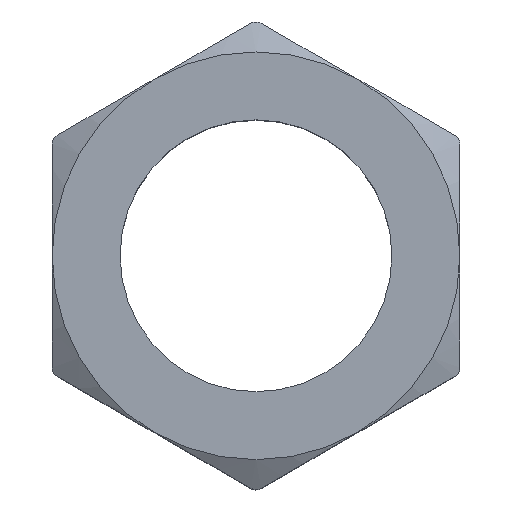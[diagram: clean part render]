
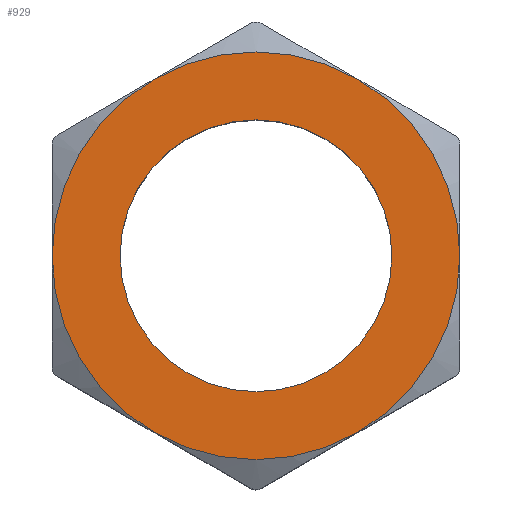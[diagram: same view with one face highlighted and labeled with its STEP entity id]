
A CAD part, top view. The second image highlights one B-rep face of the part: STEP entity #929.
In plain terms, the highlighted planar face has unit normal (0, 0, 1).
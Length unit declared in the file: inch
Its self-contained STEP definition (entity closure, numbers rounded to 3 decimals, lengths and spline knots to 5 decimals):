
#6 = CIRCLE ( 'NONE', #634, 0.65625 ) ;
#23 = DIRECTION ( 'NONE',  ( 0., 0., 1. ) ) ;
#54 = VERTEX_POINT ( 'NONE', #661 ) ;
#59 = CIRCLE ( 'NONE', #209, 0.65625 ) ;
#72 = CIRCLE ( 'NONE', #690, 0.65625 ) ;
#81 = ORIENTED_EDGE ( 'NONE', *, *, #644, .T. ) ;
#98 = DIRECTION ( 'NONE',  ( 1., 0., 0. ) ) ;
#109 = FACE_OUTER_BOUND ( 'NONE', #368, .T. ) ;
#124 = DIRECTION ( 'NONE',  ( 1., 0., 0. ) ) ;
#134 = CIRCLE ( 'NONE', #262, 0.65625 ) ;
#139 = AXIS2_PLACEMENT_3D ( 'NONE', #798, #357, #510 ) ;
#153 = ORIENTED_EDGE ( 'NONE', *, *, #734, .T. ) ;
#155 = CARTESIAN_POINT ( 'NONE',  ( 0., 0., 0.375 ) ) ;
#174 = EDGE_CURVE ( 'NONE', #449, #449, #571, .T. ) ;
#175 = VERTEX_POINT ( 'NONE', #475 ) ;
#184 = CARTESIAN_POINT ( 'NONE',  ( 0., 0., 0.375 ) ) ;
#194 = CARTESIAN_POINT ( 'NONE',  ( 0., 0., 0.375 ) ) ;
#203 = ORIENTED_EDGE ( 'NONE', *, *, #174, .F. ) ;
#204 = DIRECTION ( 'NONE',  ( 1., 0., 0. ) ) ;
#209 = AXIS2_PLACEMENT_3D ( 'NONE', #194, #479, #124 ) ;
#215 = DIRECTION ( 'NONE',  ( 0., 0., 1. ) ) ;
#235 = DIRECTION ( 'NONE',  ( 0., 0., 1. ) ) ;
#248 = ORIENTED_EDGE ( 'NONE', *, *, #874, .T. ) ;
#259 = VERTEX_POINT ( 'NONE', #791 ) ;
#262 = AXIS2_PLACEMENT_3D ( 'NONE', #597, #888, #679 ) ;
#273 = AXIS2_PLACEMENT_3D ( 'NONE', #829, #850, #204 ) ;
#283 = CARTESIAN_POINT ( 'NONE',  ( 0., 0., 0.375 ) ) ;
#293 = CARTESIAN_POINT ( 'NONE',  ( -0.32812, 0.56833, 0.375 ) ) ;
#297 = DIRECTION ( 'NONE',  ( 1., 0., 0. ) ) ;
#309 = EDGE_CURVE ( 'NONE', #428, #175, #725, .T. ) ;
#336 = CIRCLE ( 'NONE', #139, 0.65625 ) ;
#338 = VERTEX_POINT ( 'NONE', #432 ) ;
#357 = DIRECTION ( 'NONE',  ( 0., 0., 1. ) ) ;
#358 = EDGE_CURVE ( 'NONE', #692, #54, #72, .T. ) ;
#368 = EDGE_LOOP ( 'NONE', ( #81, #893, #153, #523, #704, #248 ) ) ;
#410 = DIRECTION ( 'NONE',  ( 1., 0., 0. ) ) ;
#428 = VERTEX_POINT ( 'NONE', #851 ) ;
#432 = CARTESIAN_POINT ( 'NONE',  ( -0.32813, -0.56833, 0.375 ) ) ;
#449 = VERTEX_POINT ( 'NONE', #882 ) ;
#471 = FACE_BOUND ( 'NONE', #494, .T. ) ;
#475 = CARTESIAN_POINT ( 'NONE',  ( 0.32813, 0.56833, 0.375 ) ) ;
#479 = DIRECTION ( 'NONE',  ( 0., 0., 1. ) ) ;
#494 = EDGE_LOOP ( 'NONE', ( #203 ) ) ;
#510 = DIRECTION ( 'NONE',  ( 1., 0., 0. ) ) ;
#523 = ORIENTED_EDGE ( 'NONE', *, *, #358, .T. ) ;
#539 = AXIS2_PLACEMENT_3D ( 'NONE', #184, #235, #685 ) ;
#571 = CIRCLE ( 'NONE', #273, 0.4375 ) ;
#597 = CARTESIAN_POINT ( 'NONE',  ( 0., 0., 0.375 ) ) ;
#612 = AXIS2_PLACEMENT_3D ( 'NONE', #155, #215, #297 ) ;
#622 = EDGE_CURVE ( 'NONE', #54, #338, #59, .T. ) ;
#634 = AXIS2_PLACEMENT_3D ( 'NONE', #283, #765, #410 ) ;
#644 = EDGE_CURVE ( 'NONE', #259, #428, #6, .T. ) ;
#661 = CARTESIAN_POINT ( 'NONE',  ( -0.65625, 0., 0.375 ) ) ;
#679 = DIRECTION ( 'NONE',  ( 1., 0., 0. ) ) ;
#685 = DIRECTION ( 'NONE',  ( 1., 0., 0. ) ) ;
#690 = AXIS2_PLACEMENT_3D ( 'NONE', #825, #23, #98 ) ;
#692 = VERTEX_POINT ( 'NONE', #293 ) ;
#704 = ORIENTED_EDGE ( 'NONE', *, *, #622, .T. ) ;
#725 = CIRCLE ( 'NONE', #612, 0.65625 ) ;
#734 = EDGE_CURVE ( 'NONE', #175, #692, #336, .T. ) ;
#765 = DIRECTION ( 'NONE',  ( 0., 0., 1. ) ) ;
#791 = CARTESIAN_POINT ( 'NONE',  ( 0.32812, -0.56833, 0.375 ) ) ;
#798 = CARTESIAN_POINT ( 'NONE',  ( 0., 0., 0.375 ) ) ;
#825 = CARTESIAN_POINT ( 'NONE',  ( 0., 0., 0.375 ) ) ;
#828 = PLANE ( 'NONE',  #539 ) ;
#829 = CARTESIAN_POINT ( 'NONE',  ( 0., 0., 0.375 ) ) ;
#850 = DIRECTION ( 'NONE',  ( 0., 0., 1. ) ) ;
#851 = CARTESIAN_POINT ( 'NONE',  ( 0.65625, 0., 0.375 ) ) ;
#874 = EDGE_CURVE ( 'NONE', #338, #259, #134, .T. ) ;
#882 = CARTESIAN_POINT ( 'NONE',  ( 0.4375, 0., 0.375 ) ) ;
#888 = DIRECTION ( 'NONE',  ( 0., 0., 1. ) ) ;
#893 = ORIENTED_EDGE ( 'NONE', *, *, #309, .T. ) ;
#929 = ADVANCED_FACE ( 'NONE', ( #471, #109 ), #828, .T. ) ;
